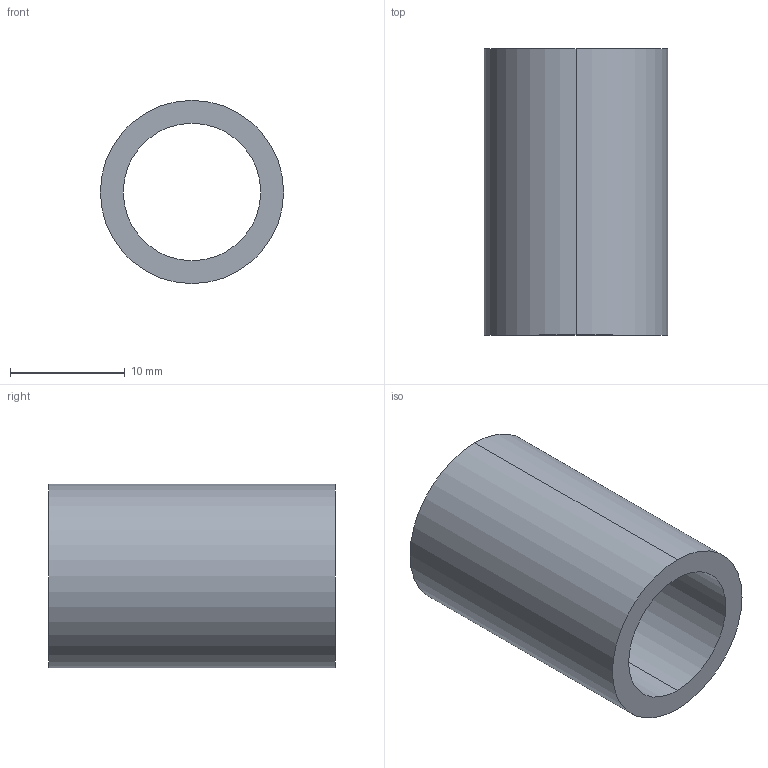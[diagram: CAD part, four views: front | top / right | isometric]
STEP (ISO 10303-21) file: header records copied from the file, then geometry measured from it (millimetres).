
FILE_DESCRIPTION(/* description */ ('STEP AP242 Edition 2','CAx-IF Rec.Pracs.---Representation and Presentation of Product Manufacturing Information (PMI)---4.0---2014-10-13','CAx-IF Rec.Pracs.---3D Tessellated Geometry---0.4---2014-09-14','2;1','CAx-IF Rec.Pracs.---User Defined Attributes---1.5---2016-08-15'),/* implementation_level */ '2;1');
FILE_NAME(/* name */ 'Assembly 1 - Part 5 (1)',/* time_stamp */ '2026-10-08T06:00:17Z',/* author */ (''),/* organization */ (''),/* preprocessor_version */ 'ST-DEVELOPER v20',/* originating_system */ 'ONSHAPE BY PTC INC, 1.221',/* authorisation */ ' ');
FILE_SCHEMA (('AP242_MANAGED_MODEL_BASED_3D_ENGINEERING_MIM_LF { 1 0 10303 442 3 1 4 }'));
Length unit declared in the file: metre
Products named in the file (1): Part 5
Bounding box: 16 x 25 x 16 mm (x, y, z)
Volume: 2199.1 mm3; surface area: 2375 mm2
Topology: 1 solids, 1 shells, 6 faces, 12 edges, 8 vertices
Faces by surface type: bspline 6
Entity records: 194 total; most frequent: CARTESIAN_POINT 65, ORIENTED_EDGE 24, DIRECTION 18, EDGE_CURVE 12, AXIS2_PLACEMENT_3D 9, VERTEX_POINT 8, CIRCLE 8, EDGE_LOOP 8
